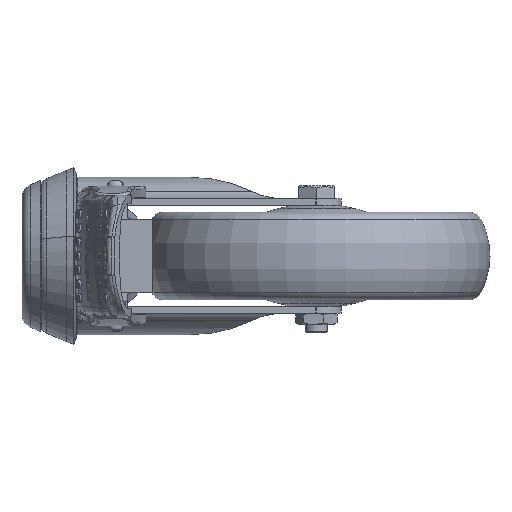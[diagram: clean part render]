
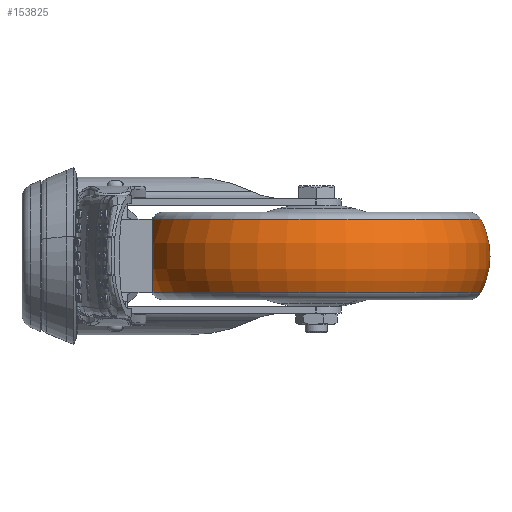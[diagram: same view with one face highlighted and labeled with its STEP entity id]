
A CAD part, left-side view. The second image highlights one B-rep face of the part: STEP entity #153825.
In plain terms, the highlighted toroidal (fillet/blend) face has major radius 34.25 mm and minor radius 28 mm.
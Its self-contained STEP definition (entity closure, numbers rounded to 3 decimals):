
#5545 = DIRECTION ( 'NONE',  ( -1., 0., 0. ) ) ;
#8925 = AXIS2_PLACEMENT_3D ( 'NONE', #42627, #56599, #154161 ) ;
#16661 = DIRECTION ( 'NONE',  ( 0., -1., 0. ) ) ;
#17084 = AXIS2_PLACEMENT_3D ( 'NONE', #153506, #92112, #16661 ) ;
#18812 = AXIS2_PLACEMENT_3D ( 'NONE', #88696, #40218, #102146 ) ;
#21042 = EDGE_LOOP ( 'NONE', ( #81574, #62908, #141879, #131164 ) ) ;
#22821 = TOROIDAL_SURFACE ( 'NONE', #134314, 34.25, 28. ) ;
#30369 = CARTESIAN_POINT ( 'NONE',  ( 101.151, -77.717, 110.086 ) ) ;
#40218 = DIRECTION ( 'NONE',  ( 0., 0., -1. ) ) ;
#42627 = CARTESIAN_POINT ( 'NONE',  ( 101.151, -146.217, 110.086 ) ) ;
#54089 = EDGE_CURVE ( 'NONE', #73427, #98153, #109459, .T. ) ;
#54118 = AXIS2_PLACEMENT_3D ( 'NONE', #30369, #5545, #128867 ) ;
#56599 = DIRECTION ( 'NONE',  ( 1., 0., 0. ) ) ;
#57221 = DIRECTION ( 'NONE',  ( 0., 0., -1. ) ) ;
#60534 = CARTESIAN_POINT ( 'NONE',  ( 101.151, -52.964, 123.173 ) ) ;
#60602 = EDGE_CURVE ( 'NONE', #98492, #73427, #156665, .T. ) ;
#62908 = ORIENTED_EDGE ( 'NONE', *, *, #54089, .T. ) ;
#73427 = VERTEX_POINT ( 'NONE', #60534 ) ;
#81574 = ORIENTED_EDGE ( 'NONE', *, *, #60602, .T. ) ;
#88696 = CARTESIAN_POINT ( 'NONE',  ( 101.151, -111.967, 96.999 ) ) ;
#92112 = DIRECTION ( 'NONE',  ( 0., 0., -1. ) ) ;
#97236 = CIRCLE ( 'NONE', #8925, 28. ) ;
#98153 = VERTEX_POINT ( 'NONE', #99820 ) ;
#98492 = VERTEX_POINT ( 'NONE', #145396 ) ;
#99820 = CARTESIAN_POINT ( 'NONE',  ( 101.151, -52.964, 96.999 ) ) ;
#102146 = DIRECTION ( 'NONE',  ( 0., -1., 0. ) ) ;
#108763 = EDGE_CURVE ( 'NONE', #131980, #98153, #120554, .T. ) ;
#109459 = CIRCLE ( 'NONE', #54118, 28. ) ;
#113478 = CARTESIAN_POINT ( 'NONE',  ( 101.151, -170.971, 96.999 ) ) ;
#120554 = CIRCLE ( 'NONE', #18812, 59.003 ) ;
#122191 = EDGE_CURVE ( 'NONE', #98492, #131980, #97236, .T. ) ;
#124780 = FACE_OUTER_BOUND ( 'NONE', #21042, .T. ) ;
#128867 = DIRECTION ( 'NONE',  ( 0., 0., 1. ) ) ;
#129960 = DIRECTION ( 'NONE',  ( 0., -1., 0. ) ) ;
#131004 = CARTESIAN_POINT ( 'NONE',  ( 101.151, -111.967, 110.086 ) ) ;
#131164 = ORIENTED_EDGE ( 'NONE', *, *, #122191, .F. ) ;
#131980 = VERTEX_POINT ( 'NONE', #113478 ) ;
#134314 = AXIS2_PLACEMENT_3D ( 'NONE', #131004, #57221, #129960 ) ;
#141879 = ORIENTED_EDGE ( 'NONE', *, *, #108763, .F. ) ;
#145396 = CARTESIAN_POINT ( 'NONE',  ( 101.151, -170.971, 123.173 ) ) ;
#153506 = CARTESIAN_POINT ( 'NONE',  ( 101.151, -111.967, 123.173 ) ) ;
#153825 = ADVANCED_FACE ( 'NONE', ( #124780 ), #22821, .T. ) ;
#154161 = DIRECTION ( 'NONE',  ( 0., 0., -1. ) ) ;
#156665 = CIRCLE ( 'NONE', #17084, 59.003 ) ;
